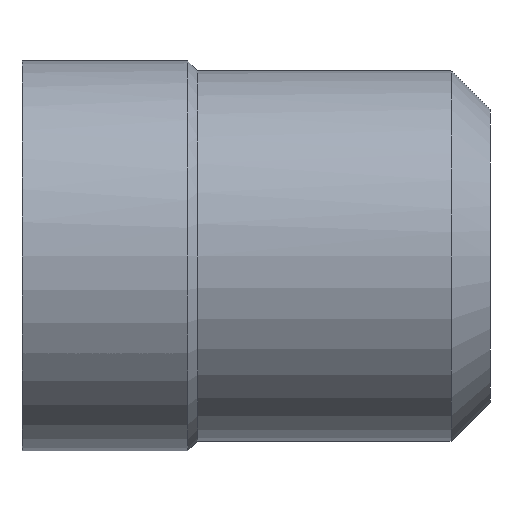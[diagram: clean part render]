
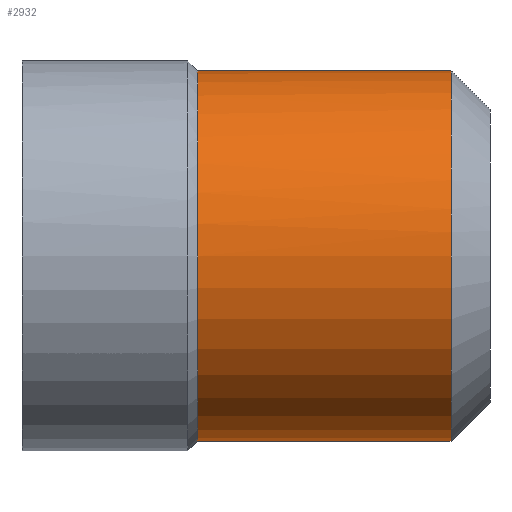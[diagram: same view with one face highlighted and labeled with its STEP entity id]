
A CAD part, front view. The second image highlights one B-rep face of the part: STEP entity #2932.
In plain terms, the highlighted cylindrical face has radius 4.75 mm (diameter 9.5 mm), a partial arc.
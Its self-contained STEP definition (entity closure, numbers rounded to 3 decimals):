
#2608=CARTESIAN_POINT('Vertex',(4.5,0.,4.75)) ;
#2622=CARTESIAN_POINT('Vertex',(4.5,0.,-4.75)) ;
#2644=CARTESIAN_POINT('Axis2P3D Location',(4.5,0.,0.)) ;
#2648=CARTESIAN_POINT('Vertex',(4.5,-4.75,0.)) ;
#2651=CARTESIAN_POINT('Axis2P3D Location',(4.5,0.,0.)) ;
#2866=CARTESIAN_POINT('Line Origine',(4.564,0.,-4.75)) ;
#2870=CARTESIAN_POINT('Vertex',(11.,0.,-4.75)) ;
#2873=CARTESIAN_POINT('Line Origine',(4.564,0.,4.75)) ;
#2877=CARTESIAN_POINT('Vertex',(11.,0.,4.75)) ;
#2904=CARTESIAN_POINT('Axis2P3D Location',(4.564,0.,0.)) ;
#2909=CARTESIAN_POINT('Axis2P3D Location',(11.,0.,0.)) ;
#2913=CARTESIAN_POINT('Vertex',(11.,-4.75,0.)) ;
#2917=CARTESIAN_POINT('Control Point',(11.,0.,4.75)) ;
#2918=CARTESIAN_POINT('Control Point',(11.,-1.492,4.75)) ;
#2919=CARTESIAN_POINT('Control Point',(11.,-2.986,4.166)) ;
#2920=CARTESIAN_POINT('Control Point',(11.,-4.166,2.986)) ;
#2921=CARTESIAN_POINT('Control Point',(11.,-4.75,1.492)) ;
#2922=CARTESIAN_POINT('Control Point',(11.,-4.75,0.)) ;
#2645=DIRECTION('Axis2P3D Direction',(-1.,0.,0.)) ;
#2652=DIRECTION('Axis2P3D Direction',(-1.,0.,0.)) ;
#2867=DIRECTION('Vector Direction',(-1.,0.,0.)) ;
#2874=DIRECTION('Vector Direction',(-1.,0.,0.)) ;
#2905=DIRECTION('Axis2P3D Direction',(-1.,-0.,-0.)) ;
#2906=DIRECTION('Axis2P3D XDirection',(0.,0.,-1.)) ;
#2910=DIRECTION('Axis2P3D Direction',(-1.,-0.,-0.)) ;
#2646=AXIS2_PLACEMENT_3D('Circle Axis2P3D',#2644,#2645,$) ;
#2653=AXIS2_PLACEMENT_3D('Circle Axis2P3D',#2651,#2652,$) ;
#2907=AXIS2_PLACEMENT_3D('Cylinder Axis2P3D',#2904,#2905,#2906) ;
#2911=AXIS2_PLACEMENT_3D('Circle Axis2P3D',#2909,#2910,$) ;
#2925=ORIENTED_EDGE('',*,*,#2879,.T.) ;
#2926=ORIENTED_EDGE('',*,*,#2655,.T.) ;
#2927=ORIENTED_EDGE('',*,*,#2650,.T.) ;
#2928=ORIENTED_EDGE('',*,*,#2872,.T.) ;
#2929=ORIENTED_EDGE('',*,*,#2915,.F.) ;
#2930=ORIENTED_EDGE('',*,*,#2923,.F.) ;
#2868=VECTOR('Line Direction',#2867,1.) ;
#2875=VECTOR('Line Direction',#2874,1.) ;
#2932=ADVANCED_FACE('MSO110',(#2931),#2908,.T.) ;
#2916=B_SPLINE_CURVE_WITH_KNOTS('',5,(#2917,#2918,#2919,#2920,#2921,#2922),.UNSPECIFIED.,.F.,.U.,(6,6),(-3.731,3.731),.UNSPECIFIED.) ;
#2647=CIRCLE('generated circle',#2646,4.75) ;
#2654=CIRCLE('generated circle',#2653,4.75) ;
#2912=CIRCLE('generated circle',#2911,4.75) ;
#2908=CYLINDRICAL_SURFACE('generated cylinder',#2907,4.75) ;
#2650=EDGE_CURVE('',#2649,#2623,#2647,.F.) ;
#2655=EDGE_CURVE('',#2609,#2649,#2654,.F.) ;
#2872=EDGE_CURVE('',#2623,#2871,#2869,.F.) ;
#2879=EDGE_CURVE('',#2878,#2609,#2876,.T.) ;
#2915=EDGE_CURVE('',#2914,#2871,#2912,.F.) ;
#2923=EDGE_CURVE('',#2878,#2914,#2916,.T.) ;
#2924=EDGE_LOOP('',(#2925,#2926,#2927,#2928,#2929,#2930)) ;
#2931=FACE_OUTER_BOUND('',#2924,.T.) ;
#2869=LINE('Line',#2866,#2868) ;
#2876=LINE('Line',#2873,#2875) ;
#2609=VERTEX_POINT('',#2608) ;
#2623=VERTEX_POINT('',#2622) ;
#2649=VERTEX_POINT('',#2648) ;
#2871=VERTEX_POINT('',#2870) ;
#2878=VERTEX_POINT('',#2877) ;
#2914=VERTEX_POINT('',#2913) ;
